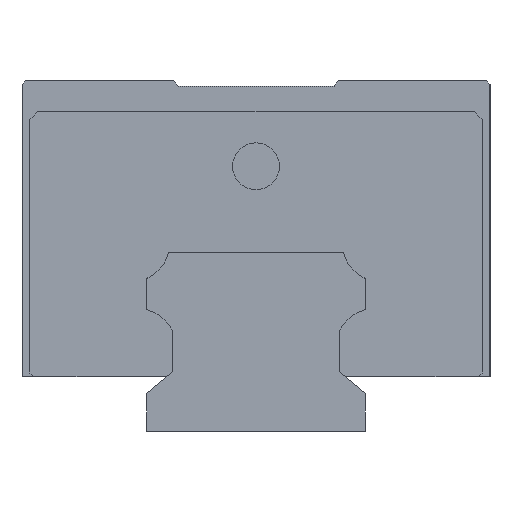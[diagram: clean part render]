
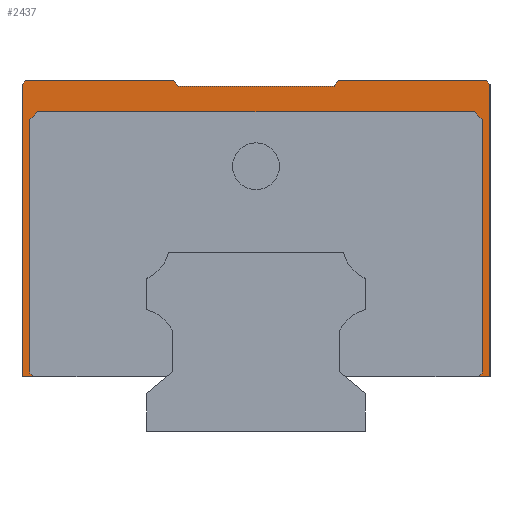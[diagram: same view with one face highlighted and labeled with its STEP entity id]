
A CAD part, left-side view. The second image highlights one B-rep face of the part: STEP entity #2437.
In plain terms, the highlighted planar face has unit normal (-1, 0, 0).
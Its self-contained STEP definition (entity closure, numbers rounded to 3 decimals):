
#11 = LINE ( 'NONE', #1313, #1611 ) ;
#24 = LINE ( 'NONE', #1855, #2419 ) ;
#60 = EDGE_CURVE ( 'NONE', #5410, #2575, #2694, .T. ) ;
#71 = DIRECTION ( 'NONE',  ( 0., -1., 0. ) ) ;
#124 = VECTOR ( 'NONE', #3206, 1000. ) ;
#251 = ORIENTED_EDGE ( 'NONE', *, *, #3396, .T. ) ;
#263 = CARTESIAN_POINT ( 'NONE',  ( -34.65, 28.5, 7. ) ) ;
#317 = VECTOR ( 'NONE', #1341, 1000. ) ;
#344 = CARTESIAN_POINT ( 'NONE',  ( -34.65, 10.629, 45. ) ) ;
#400 = DIRECTION ( 'NONE',  ( 0., 0.707, 0.707 ) ) ;
#411 = VECTOR ( 'NONE', #1606, 1000. ) ;
#453 = EDGE_LOOP ( 'NONE', ( #887, #2068, #4327, #3234, #5240, #5174, #4043, #4648, #1729, #1219, #3011, #936, #5439, #1372, #4794, #5443, #251, #3818 ) ) ;
#485 = CARTESIAN_POINT ( 'NONE',  ( -34.65, -28., 41. ) ) ;
#499 = DIRECTION ( 'NONE',  ( 0., 0., -1. ) ) ;
#535 = EDGE_CURVE ( 'NONE', #4184, #1300, #24, .T. ) ;
#552 = CARTESIAN_POINT ( 'NONE',  ( -34.65, -10., 44.25 ) ) ;
#655 = CARTESIAN_POINT ( 'NONE',  ( -34.65, -28., 41. ) ) ;
#676 = CARTESIAN_POINT ( 'NONE',  ( -34.65, 30., 7. ) ) ;
#697 = VERTEX_POINT ( 'NONE', #4681 ) ;
#716 = EDGE_CURVE ( 'NONE', #697, #3441, #4236, .T. ) ;
#739 = VECTOR ( 'NONE', #3801, 1000. ) ;
#842 = EDGE_CURVE ( 'NONE', #1593, #4598, #1203, .T. ) ;
#843 = LINE ( 'NONE', #4863, #1163 ) ;
#873 = VERTEX_POINT ( 'NONE', #344 ) ;
#887 = ORIENTED_EDGE ( 'NONE', *, *, #5177, .F. ) ;
#936 = ORIENTED_EDGE ( 'NONE', *, *, #60, .F. ) ;
#996 = EDGE_CURVE ( 'NONE', #4184, #2575, #1847, .T. ) ;
#1060 = CARTESIAN_POINT ( 'NONE',  ( -34.65, 29., 40. ) ) ;
#1073 = EDGE_CURVE ( 'NONE', #4723, #4437, #4555, .T. ) ;
#1106 = DIRECTION ( 'NONE',  ( 1., 0., 0. ) ) ;
#1120 = EDGE_CURVE ( 'NONE', #4598, #4290, #4145, .T. ) ;
#1134 = DIRECTION ( 'NONE',  ( 0., 1., 0. ) ) ;
#1147 = CARTESIAN_POINT ( 'NONE',  ( -34.65, 29.5, 45. ) ) ;
#1163 = VECTOR ( 'NONE', #3424, 1000. ) ;
#1184 = VECTOR ( 'NONE', #5510, 1000. ) ;
#1194 = CARTESIAN_POINT ( 'NONE',  ( -34.65, 28., 41. ) ) ;
#1203 = LINE ( 'NONE', #2121, #2246 ) ;
#1219 = ORIENTED_EDGE ( 'NONE', *, *, #535, .F. ) ;
#1300 = VERTEX_POINT ( 'NONE', #1663 ) ;
#1313 = CARTESIAN_POINT ( 'NONE',  ( -34.65, 28.5, 7. ) ) ;
#1341 = DIRECTION ( 'NONE',  ( 0., 0.643, -0.766 ) ) ;
#1357 = EDGE_CURVE ( 'NONE', #5337, #873, #1634, .T. ) ;
#1372 = ORIENTED_EDGE ( 'NONE', *, *, #2258, .T. ) ;
#1396 = EDGE_CURVE ( 'NONE', #5410, #4615, #1399, .T. ) ;
#1399 = LINE ( 'NONE', #1779, #317 ) ;
#1405 = CARTESIAN_POINT ( 'NONE',  ( -34.65, 28., 41. ) ) ;
#1433 = EDGE_CURVE ( 'NONE', #3756, #873, #2315, .T. ) ;
#1469 = CARTESIAN_POINT ( 'NONE',  ( -34.65, -30., 44.5 ) ) ;
#1554 = PLANE ( 'NONE',  #4935 ) ;
#1593 = VERTEX_POINT ( 'NONE', #3736 ) ;
#1606 = DIRECTION ( 'NONE',  ( 0., 0.643, 0.766 ) ) ;
#1611 = VECTOR ( 'NONE', #400, 1000. ) ;
#1625 = LINE ( 'NONE', #655, #5121 ) ;
#1630 = VECTOR ( 'NONE', #4946, 1000. ) ;
#1634 = LINE ( 'NONE', #5628, #411 ) ;
#1663 = CARTESIAN_POINT ( 'NONE',  ( -34.65, -30., 7. ) ) ;
#1694 = CARTESIAN_POINT ( 'NONE',  ( -34.65, -28.5, 7. ) ) ;
#1712 = VECTOR ( 'NONE', #71, 1000. ) ;
#1729 = ORIENTED_EDGE ( 'NONE', *, *, #2445, .F. ) ;
#1779 = CARTESIAN_POINT ( 'NONE',  ( -34.65, -10.629, 45. ) ) ;
#1787 = DIRECTION ( 'NONE',  ( 0., 1., 0. ) ) ;
#1847 = LINE ( 'NONE', #3654, #1630 ) ;
#1855 = CARTESIAN_POINT ( 'NONE',  ( -34.65, -30., 45. ) ) ;
#1863 = VECTOR ( 'NONE', #4482, 1000. ) ;
#1962 = DIRECTION ( 'NONE',  ( 0., 0.707, -0.707 ) ) ;
#2050 = CARTESIAN_POINT ( 'NONE',  ( -34.65, 30., 45. ) ) ;
#2068 = ORIENTED_EDGE ( 'NONE', *, *, #4422, .T. ) ;
#2079 = DIRECTION ( 'NONE',  ( 0., 1., 0. ) ) ;
#2102 = VECTOR ( 'NONE', #3494, 1000. ) ;
#2121 = CARTESIAN_POINT ( 'NONE',  ( -34.65, -29., 40. ) ) ;
#2246 = VECTOR ( 'NONE', #5637, 1000. ) ;
#2258 = EDGE_CURVE ( 'NONE', #4615, #5337, #3151, .T. ) ;
#2315 = LINE ( 'NONE', #4516, #1712 ) ;
#2419 = VECTOR ( 'NONE', #499, 1000. ) ;
#2437 = ADVANCED_FACE ( 'NONE', ( #5573 ), #1554, .F. ) ;
#2445 = EDGE_CURVE ( 'NONE', #1300, #4290, #3500, .T. ) ;
#2560 = EDGE_CURVE ( 'NONE', #4437, #1593, #1625, .T. ) ;
#2564 = DIRECTION ( 'NONE',  ( 0., 0., 1. ) ) ;
#2575 = VERTEX_POINT ( 'NONE', #4692 ) ;
#2676 = VECTOR ( 'NONE', #2079, 1000. ) ;
#2694 = LINE ( 'NONE', #2050, #1863 ) ;
#2735 = EDGE_CURVE ( 'NONE', #5077, #5654, #3009, .T. ) ;
#2838 = CARTESIAN_POINT ( 'NONE',  ( -34.65, 29.5, 45. ) ) ;
#2983 = CARTESIAN_POINT ( 'NONE',  ( -34.65, 30., 7. ) ) ;
#3009 = LINE ( 'NONE', #2983, #4368 ) ;
#3011 = ORIENTED_EDGE ( 'NONE', *, *, #996, .T. ) ;
#3031 = CARTESIAN_POINT ( 'NONE',  ( -34.65, 30., 44.5 ) ) ;
#3151 = LINE ( 'NONE', #552, #3334 ) ;
#3155 = CARTESIAN_POINT ( 'NONE',  ( -34.65, 10., 44.25 ) ) ;
#3206 = DIRECTION ( 'NONE',  ( 0., -1., 0. ) ) ;
#3234 = ORIENTED_EDGE ( 'NONE', *, *, #4818, .T. ) ;
#3312 = DIRECTION ( 'NONE',  ( 0., -0.707, -0.707 ) ) ;
#3334 = VECTOR ( 'NONE', #1787, 1000. ) ;
#3357 = CARTESIAN_POINT ( 'NONE',  ( -34.65, -30., 45. ) ) ;
#3396 = EDGE_CURVE ( 'NONE', #3756, #5654, #5193, .T. ) ;
#3424 = DIRECTION ( 'NONE',  ( 0., 1., 0. ) ) ;
#3441 = VERTEX_POINT ( 'NONE', #1060 ) ;
#3444 = CARTESIAN_POINT ( 'NONE',  ( -34.65, -30., 7. ) ) ;
#3494 = DIRECTION ( 'NONE',  ( 0., -0.707, 0.707 ) ) ;
#3500 = LINE ( 'NONE', #3444, #2676 ) ;
#3616 = VECTOR ( 'NONE', #1962, 1000. ) ;
#3654 = CARTESIAN_POINT ( 'NONE',  ( -34.65, -30., 44.5 ) ) ;
#3736 = CARTESIAN_POINT ( 'NONE',  ( -34.65, -29., 40. ) ) ;
#3756 = VERTEX_POINT ( 'NONE', #1147 ) ;
#3801 = DIRECTION ( 'NONE',  ( 0., 0., 1. ) ) ;
#3818 = ORIENTED_EDGE ( 'NONE', *, *, #2735, .F. ) ;
#3907 = CARTESIAN_POINT ( 'NONE',  ( -34.65, 29., 40. ) ) ;
#4043 = ORIENTED_EDGE ( 'NONE', *, *, #842, .T. ) ;
#4065 = CARTESIAN_POINT ( 'NONE',  ( -34.65, -10.629, 45. ) ) ;
#4145 = LINE ( 'NONE', #4672, #3616 ) ;
#4184 = VERTEX_POINT ( 'NONE', #1469 ) ;
#4236 = LINE ( 'NONE', #5503, #739 ) ;
#4290 = VERTEX_POINT ( 'NONE', #1694 ) ;
#4327 = ORIENTED_EDGE ( 'NONE', *, *, #716, .T. ) ;
#4368 = VECTOR ( 'NONE', #2564, 1000. ) ;
#4422 = EDGE_CURVE ( 'NONE', #5090, #697, #11, .T. ) ;
#4437 = VERTEX_POINT ( 'NONE', #485 ) ;
#4482 = DIRECTION ( 'NONE',  ( 0., -1., 0. ) ) ;
#4516 = CARTESIAN_POINT ( 'NONE',  ( -34.65, 30., 45. ) ) ;
#4555 = LINE ( 'NONE', #1405, #124 ) ;
#4598 = VERTEX_POINT ( 'NONE', #5025 ) ;
#4615 = VERTEX_POINT ( 'NONE', #5137 ) ;
#4648 = ORIENTED_EDGE ( 'NONE', *, *, #1120, .T. ) ;
#4672 = CARTESIAN_POINT ( 'NONE',  ( -34.65, -29., 7.5 ) ) ;
#4681 = CARTESIAN_POINT ( 'NONE',  ( -34.65, 29., 7.5 ) ) ;
#4692 = CARTESIAN_POINT ( 'NONE',  ( -34.65, -29.5, 45. ) ) ;
#4723 = VERTEX_POINT ( 'NONE', #1194 ) ;
#4785 = LINE ( 'NONE', #3907, #2102 ) ;
#4794 = ORIENTED_EDGE ( 'NONE', *, *, #1357, .T. ) ;
#4818 = EDGE_CURVE ( 'NONE', #3441, #4723, #4785, .T. ) ;
#4863 = CARTESIAN_POINT ( 'NONE',  ( -34.65, 11.769, 7. ) ) ;
#4935 = AXIS2_PLACEMENT_3D ( 'NONE', #3357, #1106, #1134 ) ;
#4946 = DIRECTION ( 'NONE',  ( 0., 0.707, 0.707 ) ) ;
#5025 = CARTESIAN_POINT ( 'NONE',  ( -34.65, -29., 7.5 ) ) ;
#5077 = VERTEX_POINT ( 'NONE', #676 ) ;
#5090 = VERTEX_POINT ( 'NONE', #263 ) ;
#5121 = VECTOR ( 'NONE', #3312, 1000. ) ;
#5137 = CARTESIAN_POINT ( 'NONE',  ( -34.65, -10., 44.25 ) ) ;
#5174 = ORIENTED_EDGE ( 'NONE', *, *, #2560, .T. ) ;
#5177 = EDGE_CURVE ( 'NONE', #5090, #5077, #843, .T. ) ;
#5193 = LINE ( 'NONE', #2838, #1184 ) ;
#5240 = ORIENTED_EDGE ( 'NONE', *, *, #1073, .T. ) ;
#5337 = VERTEX_POINT ( 'NONE', #3155 ) ;
#5410 = VERTEX_POINT ( 'NONE', #4065 ) ;
#5439 = ORIENTED_EDGE ( 'NONE', *, *, #1396, .T. ) ;
#5443 = ORIENTED_EDGE ( 'NONE', *, *, #1433, .F. ) ;
#5503 = CARTESIAN_POINT ( 'NONE',  ( -34.65, 29., 7.5 ) ) ;
#5510 = DIRECTION ( 'NONE',  ( 0., 0.707, -0.707 ) ) ;
#5573 = FACE_OUTER_BOUND ( 'NONE', #453, .T. ) ;
#5628 = CARTESIAN_POINT ( 'NONE',  ( -34.65, 10., 44.25 ) ) ;
#5637 = DIRECTION ( 'NONE',  ( 0., 0., -1. ) ) ;
#5654 = VERTEX_POINT ( 'NONE', #3031 ) ;
